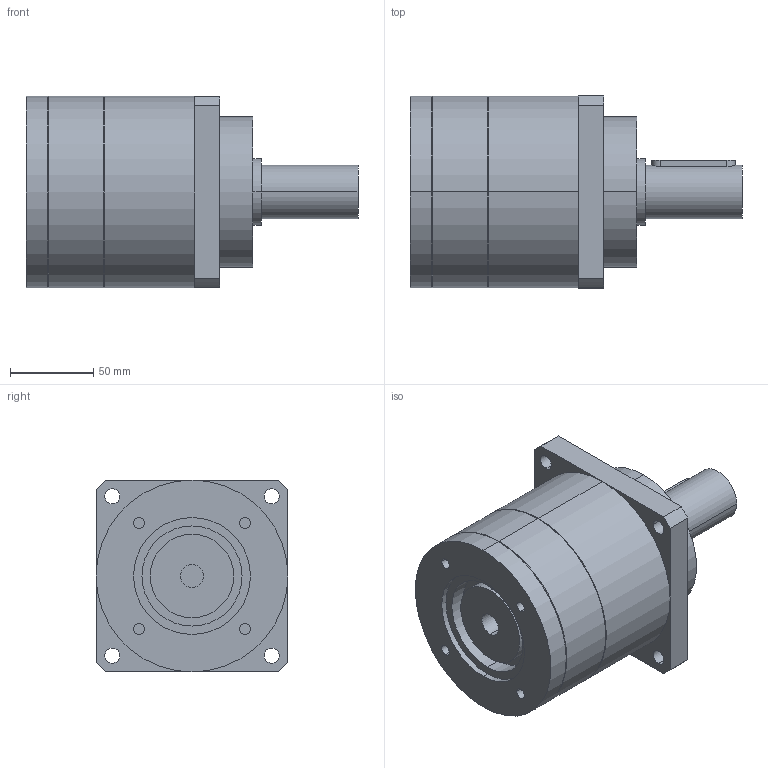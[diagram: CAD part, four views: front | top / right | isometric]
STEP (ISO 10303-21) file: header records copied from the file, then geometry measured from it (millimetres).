
FILE_DESCRIPTION(('CoCreate Modeling STEP Export'),'2;1');
FILE_NAME('GPT120_ig-3-4-5-7-10_32_B5A_14_P17.stp','2015-02-04T16:07:27',(''),(''),'CoCreate Modeling STEP processor for AP214 (Solid Model)','CoCreate Modeling 16.00C 25-Feb-2009 (C) Parametric Technology GmbH','');
FILE_SCHEMA(('AUTOMOTIVE_DESIGN { 1 0 10303 214 1 1 1 1 }'));
Length unit declared in the file: millimetre
Products named in the file (2): GPT120_ig-3-4-5-7-10_32_B5A_14_P17
Assembly tree (1 placements, depth 2):
  GPT120_ig-3-4-5-7-10_32_B5A_14_P17
    GPT120_ig-3-4-5-7-10_32_B5A_14_P17
Bounding box: 199 x 115 x 115 mm (x, y, z)
Volume: 1388885.8 mm3; surface area: 90640.3 mm2
Topology: 1 solids, 1 shells, 75 faces, 191 edges, 132 vertices
Faces by surface type: cylinder 44, plane 27, cone 4
Entity records: 2380 total; most frequent: CARTESIAN_POINT 725, ORIENTED_EDGE 382, DIRECTION 280, EDGE_CURVE 191, VERTEX_POINT 132, AXIS2_PLACEMENT_3D 105, EDGE_LOOP 97, FACE_OUTER_BOUND 75
